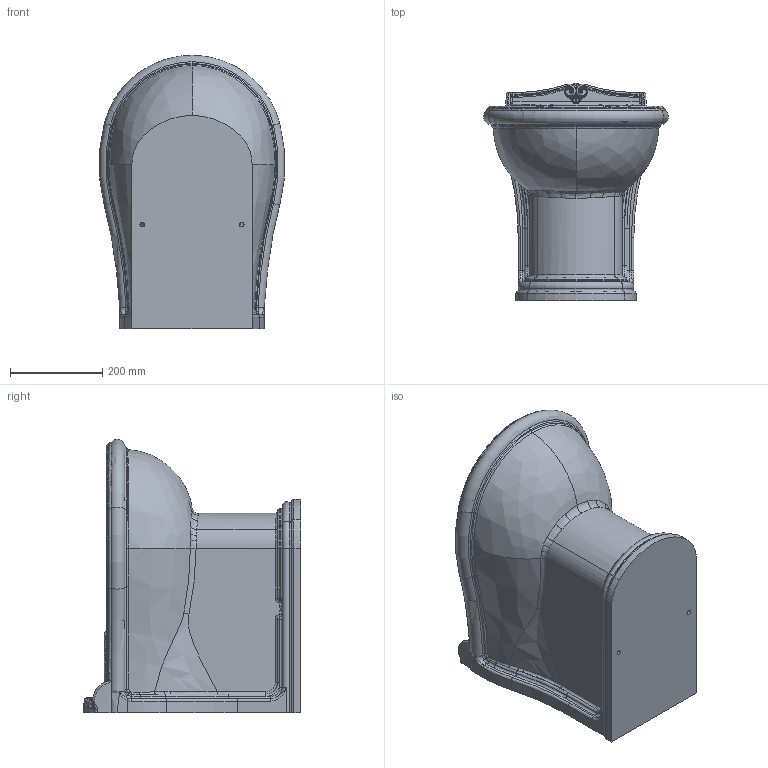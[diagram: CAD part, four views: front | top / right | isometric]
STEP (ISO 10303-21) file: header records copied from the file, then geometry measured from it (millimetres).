
FILE_DESCRIPTION (( 'STEP AP214' ), '1' );
FILE_NAME ('JUB510_T.STEP', '2017-12-12T06:51:27', ( '' ), ( '' ), 'SwSTEP 2.0', 'SolidWorks 2018', '' );
FILE_SCHEMA (( 'AUTOMOTIVE_DESIGN' ));
Length unit declared in the file: millimetre
Products named in the file (1): JUB510_T
Bounding box: 399.57 x 470 x 591.03 mm (x, y, z)
Volume: 36032770.6 mm3; surface area: 1148666.5 mm2
Topology: 1 solids, 1 shells, 524 faces, 1254 edges, 704 vertices
Faces by surface type: bspline 284, cylinder 90, torus 87, plane 47, sphere 12, cone 4
Full cylindrical faces by diameter (mm): 10 x2, 20 x1, 35 x1, 47 x1
Entity records: 37544 total; most frequent: CARTESIAN_POINT 27758, ORIENTED_EDGE 2430, DIRECTION 1522, EDGE_CURVE 1215, VERTEX_POINT 700, AXIS2_PLACEMENT_3D 687, B_SPLINE_CURVE_WITH_KNOTS 578, EDGE_LOOP 535
